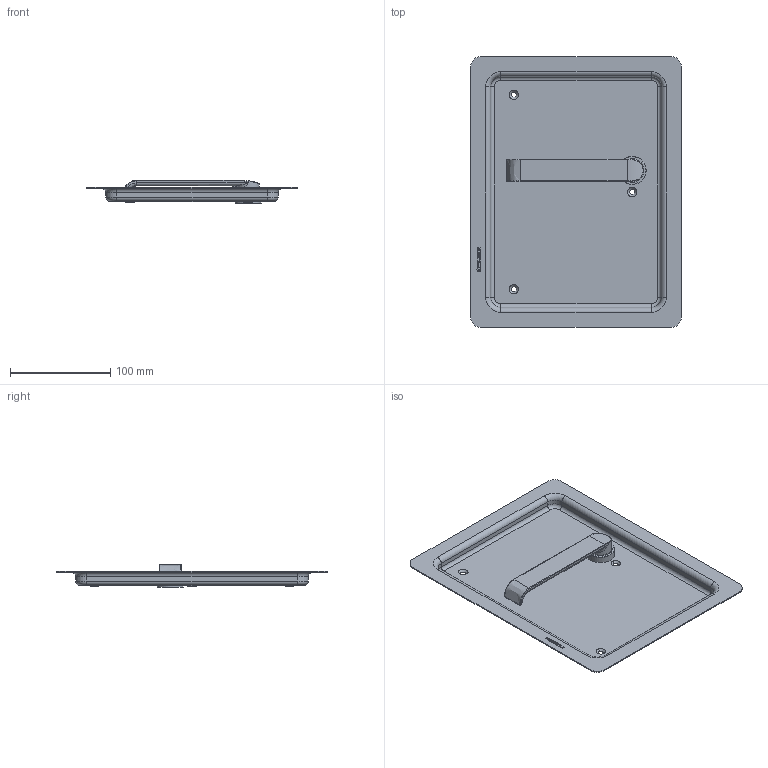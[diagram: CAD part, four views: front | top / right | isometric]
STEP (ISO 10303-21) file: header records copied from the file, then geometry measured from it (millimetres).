
FILE_DESCRIPTION(/* description */ (''),/* implementation_level */ '2;1');
FILE_NAME(/* name */ 'C:\ADSK_DMS_WS\Designs\Vorschläge\Loc Schalen\Muschel Serie 6\S6.13.D1Links\Heusser-Muschel S6.13.D1.0L.stp',/* time_stamp */ '2020-10-15T14:16:59+02:00',/* author */ ('gm'),/* organization */ (''),/* preprocessor_version */ 'ST-DEVELOPER v16.5',/* originating_system */ 'Autodesk Inventor 2017',/* authorisation */ '');
FILE_SCHEMA (('AUTOMOTIVE_DESIGN { 1 0 10303 214 3 1 1 }'));
Length unit declared in the file: millimetre
Products named in the file (1): S6.13.D1.0L
Bounding box: 210 x 270 x 23 mm (x, y, z)
Volume: 85252.5 mm3; surface area: 139126 mm2
Topology: 1 solids, 2 shells, 302 faces, 757 edges, 480 vertices
Faces by surface type: plane 130, bspline 78, cylinder 59, torus 19, cone 16
Full cylindrical faces by diameter (mm): 1.7 x2, 6 x1, 14.2 x1, 16 x3, 18 x1, 19 x1, 19.1 x1, 22 x1, 23 x1, 23.2 x1, 24 x1, 25 x1, 26 x1, 28 x1
Entity records: 10076 total; most frequent: CARTESIAN_POINT 2969, ORIENTED_EDGE 1424, DIRECTION 1254, EDGE_CURVE 712, VERTEX_POINT 472, AXIS2_PLACEMENT_3D 431, LINE 392, VECTOR 392
